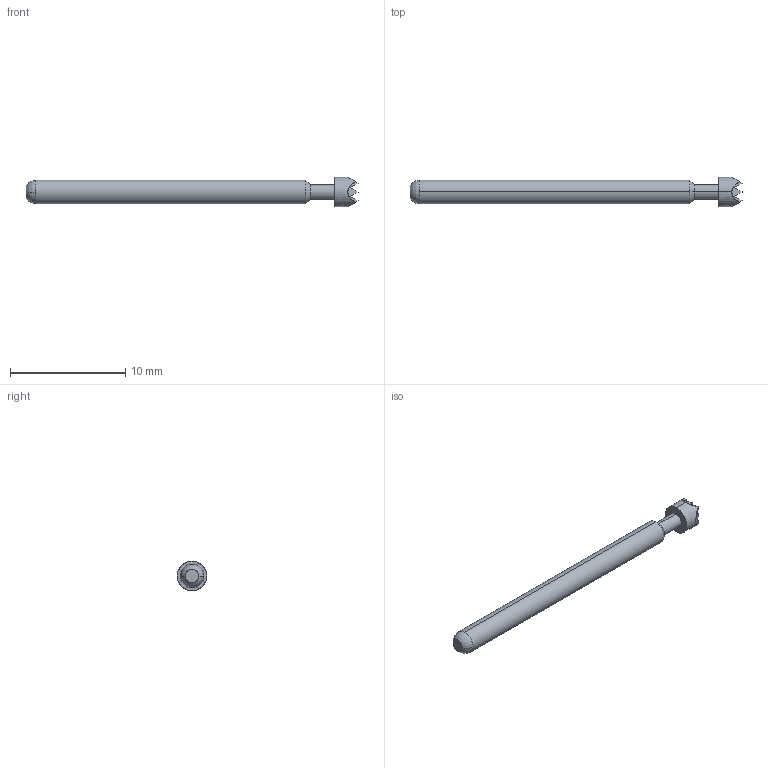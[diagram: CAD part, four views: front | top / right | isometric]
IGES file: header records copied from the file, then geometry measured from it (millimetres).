
Start section: SolidWorks IGES file using analytic representation for surfaces
Global section: file name: C:\Documents and Settings\mrumschlag\Desktop\changes\new\test\EPA-3H RECD.IGS; native system: SolidWorks 2008; preprocessor: SolidWorks 2008; author: mrumschlag; date: 110414.162812; units: inch
Bounding box: 28.78 x 2.54 x 2.54 mm (x, y, z)
Surface area: 192 mm2 (no closed solid volume)
Topology: 0 solids, 0 shells, 40 faces, 250 edges, 250 vertices
Faces by surface type: bspline 30, revolution 10
